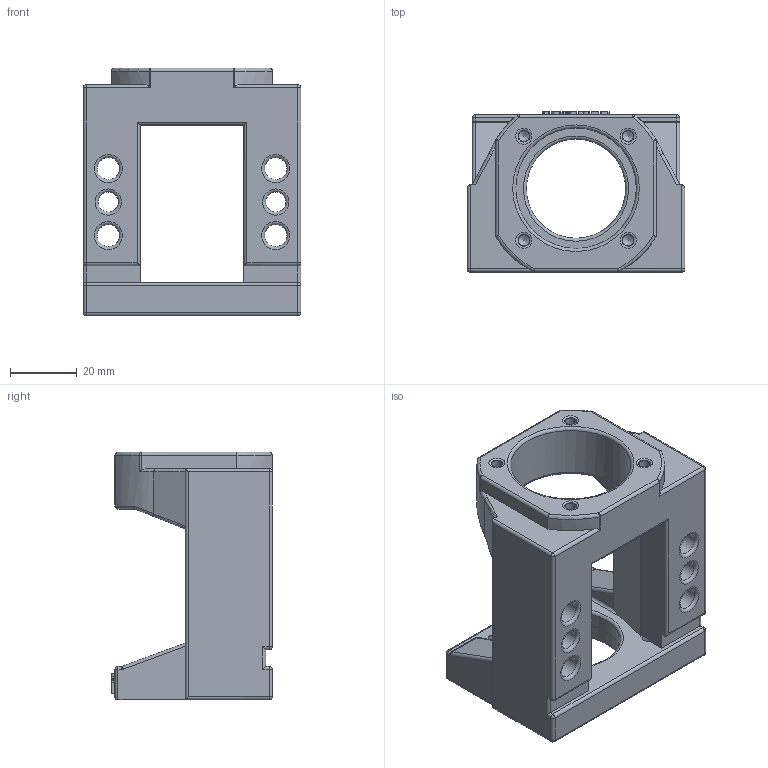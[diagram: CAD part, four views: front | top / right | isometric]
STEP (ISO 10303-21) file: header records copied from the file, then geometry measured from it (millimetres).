
FILE_DESCRIPTION(/* description */ (''),/* implementation_level */ '2;1');
FILE_NAME(/* name */ 'M40B-FK12-A.stp',/* time_stamp */ '2016-10-27T09:59:23+08:00',/* author */ (''),/* organization */ (''),/* preprocessor_version */ 'ST-DEVELOPER v15',/* originating_system */ 'SIEMENS PLM Software NX 8.5',/* authorisation */ '');
FILE_SCHEMA (('CONFIG_CONTROL_DESIGN'));
Length unit declared in the file: millimetre
Products named in the file (1): MBA12-B
Bounding box: 65 x 48 x 74 mm (x, y, z)
Volume: 83926.1 mm3; surface area: 26028 mm2
Topology: 1 solids, 1 shells, 294 faces, 765 edges, 468 vertices
Faces by surface type: plane 103, cylinder 83, extrusion 41, torus 27, sphere 18, cone 14, bspline 8
Full cylindrical faces by diameter (mm): 3.3 x8, 6 x2, 6.6 x6, 11 x4, 29.6 x1, 30 x1, 36 x1
Entity records: 9387 total; most frequent: CARTESIAN_POINT 2976, ORIENTED_EDGE 1342, DIRECTION 1124, EDGE_CURVE 671, VERTEX_POINT 446, AXIS2_PLACEMENT_3D 414, EDGE_LOOP 381, VECTOR 296
